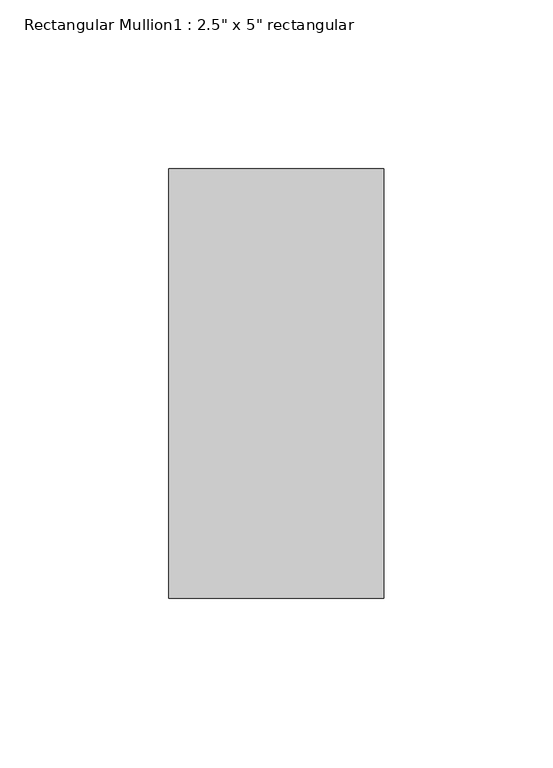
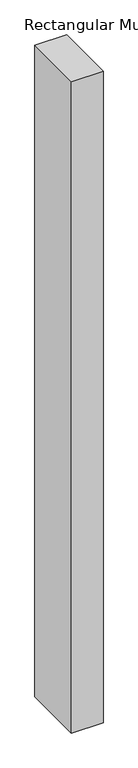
"""IFC4 building model written with IfcOpenShell, lengths in millimetres: member geometry."""

from ifc_helpers import new_model, si_unit, frame, origin, place, context, project, spatial, polyline, outline, extrude, source, transform, mapped, element, save


def member_5e02c13a(model_context):
    return source(origin(), model_context, "Body", "SweptSolid", [
        extrude(outline(polyline([(0.0, 63.5), (0.0, -63.5), (-63.5, -63.5), (-63.5, 63.5), (0.0, 63.5)])), frame((0.0, 0.0, -1383.5673076), z_axis=(0.0, 0.0, 1.0), x_axis=(1.0, 0.0, 0.0)), (0.0, 0.0, 1.0), 1383.5673076),
    ])


if __name__ == "__main__":
    model = new_model("IFC4")
    model_context = context("Model", 3, world=origin())
    ifc_project = project(units=[si_unit("LENGTHUNIT", "METRE", prefix="MILLI")], contexts=[model_context])
    site = spatial("IfcSite", under=ifc_project)
    building = spatial("IfcBuilding", under=site)
    placement = place(None, origin())
    member_shape = member_5e02c13a(model_context)
    element("IfcMember", 1, ObjectType="Rectangular Mullion1 : 2.5\" x 5\" rectangular", at=placement, inside=building, context=model_context, shape_type="MappedRepresentation", body=[
        mapped(member_shape, transform((0.0, 0.0, 0.0), x_axis=(1.0, 0.0, 0.0), y_axis=(0.0, 1.0, 0.0), z_axis=(0.0, 0.0, 1.0))),
    ])
    save(model, "model.ifc")
